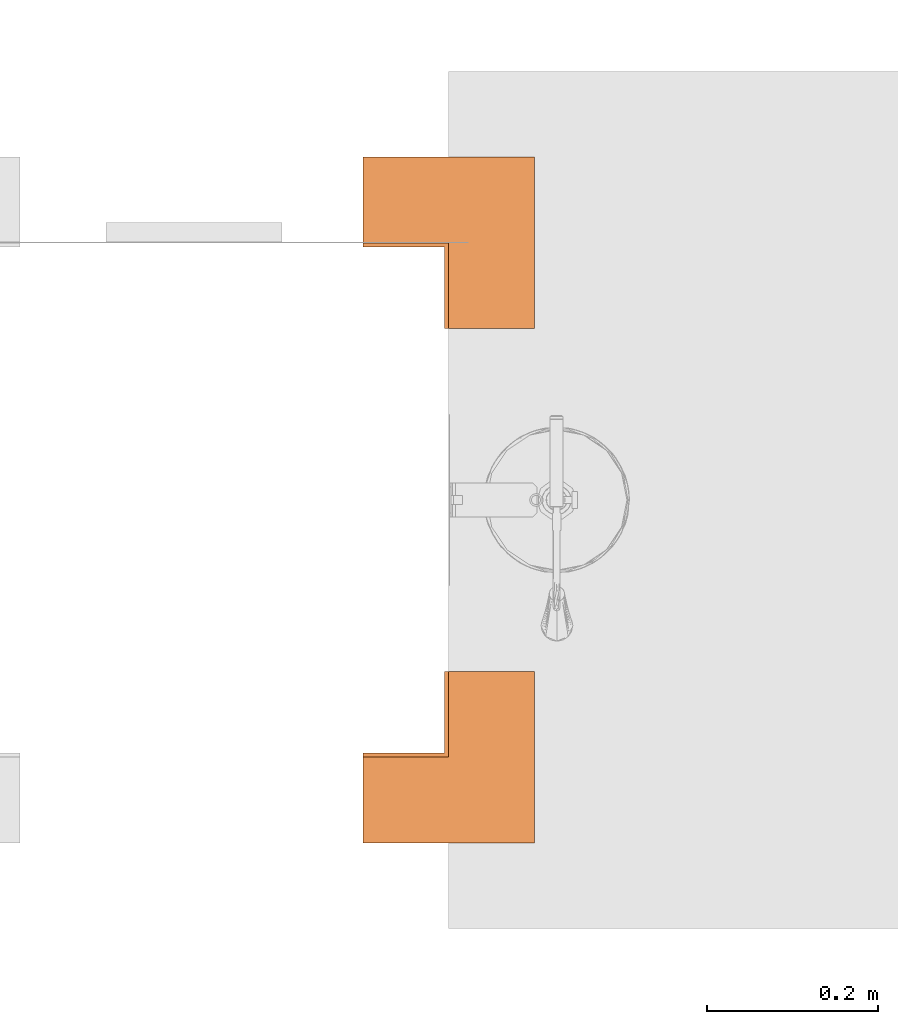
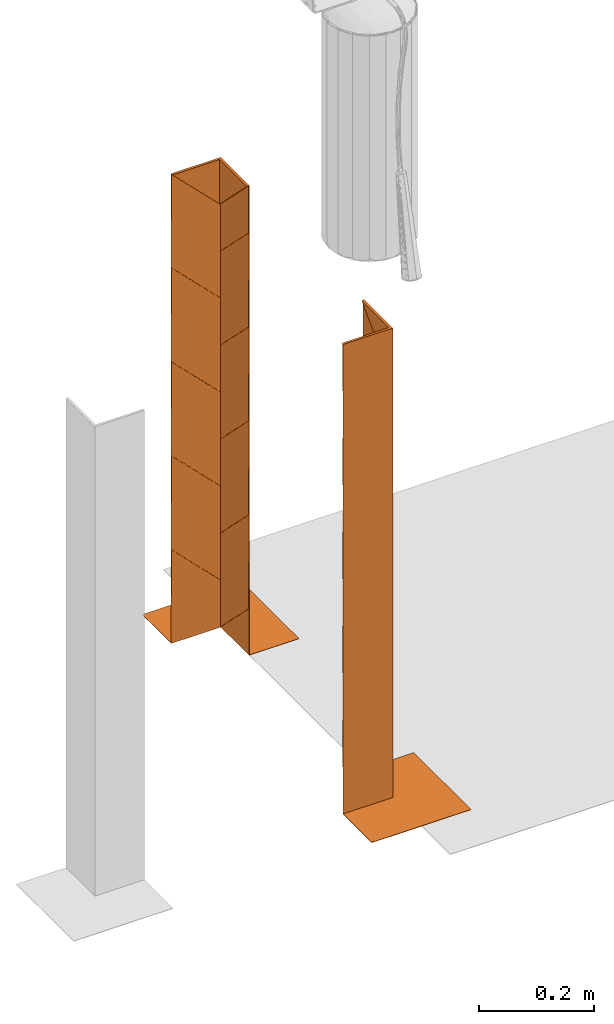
# One storey, part 13 of 119: 2 proxies.
"""IFC2X3 building model written with IfcOpenShell, lengths in metres."""

import ifcopenshell
import ifcopenshell.guid

model = None  # the IFC model being written
_history = None  # IfcOwnerHistory: only IFC2X3 demands one
_inside = {}  # id of a spatial element -> (the spatial element, [elements in it])
_under = {}  # id of a project, library or spatial element -> (it, [spatial elements below it])
_declared = {}  # id of a project -> (the project, [libraries it declares])
_typed = {}  # id of a type object -> (the type object, [elements of that type])
_made_of = {}  # id of a material, layer set ... -> (it, [elements and type objects made of it])


def new_model(schema):
    """Start an empty IFC model of exactly this schema.

    Asked for "IFC4X3", IfcOpenShell would pick the latest addendum, in which some entities
    have other attributes; the version numbers below select the first issue.
    IFC2X3 requires an IfcOwnerHistory on every rooted entity: one is made here for all.
    """
    global model, _history
    if schema == "IFC4X3":
        model = ifcopenshell.file(schema_version=(4, 3, 0, 0))
    else:
        model = ifcopenshell.file(schema=schema)
    _inside.clear()
    _under.clear()
    _declared.clear()
    _typed.clear()
    _made_of.clear()
    _history = None
    if model.schema == "IFC2X3":
        org = make("IfcOrganization", Name="unknown")
        user = make(
            "IfcPersonAndOrganization",
            ThePerson=make("IfcPerson", FamilyName="unknown"),
            TheOrganization=org,
        )
        app = make(
            "IfcApplication",
            ApplicationDeveloper=org,
            Version="unknown",
            ApplicationFullName="unknown",
            ApplicationIdentifier="unknown",
        )
        _history = make(
            "IfcOwnerHistory",
            OwningUser=user,
            OwningApplication=app,
            ChangeAction="ADDED",
            CreationDate=0,
        )
    return model


def make(cls, **values):
    """One entity of the class cls with the attributes given. An attribute that is None is left unset."""
    return model.create_entity(
        cls, **{name: value for name, value in values.items() if value is not None}
    )


def entity(cls, *values):
    """Any entity or typed value of the class cls, its attributes in the order of the schema. None: left unset."""
    e = model.create_entity(cls)
    for i, value in enumerate(values):
        if value is not None:
            e[i] = value
    return e


def rooted(cls, **values):
    """An entity with a GlobalId (a new one), such as an element, a storey or a relation."""
    return make(cls, GlobalId=ifcopenshell.guid.new(), OwnerHistory=_history, **values)


def si_unit(unit_type, name, prefix=None):
    """IfcSIUnit, for example si_unit("LENGTHUNIT", "METRE", prefix="MILLI")."""
    return make("IfcSIUnit", UnitType=unit_type, Prefix=prefix, Name=name)


def converted_unit(unit_type, name, factor, base, dimensions=None, offset=None):
    """IfcConversionBasedUnit, such as the inch: factor (a typed value) times the base unit."""
    return make(
        "IfcConversionBasedUnit"
        if offset is None
        else "IfcConversionBasedUnitWithOffset",
        ConversionOffset=offset,
        Dimensions=None
        if dimensions is None
        else entity("IfcDimensionalExponents", *dimensions),
        UnitType=unit_type,
        Name=name,
        ConversionFactor=make(
            "IfcMeasureWithUnit", ValueComponent=factor, UnitComponent=base
        ),
    )


def derived_unit(unit_type, elements):
    """IfcDerivedUnit: a product of units, each with its exponent."""
    return make(
        "IfcDerivedUnit",
        Elements=[
            make("IfcDerivedUnitElement", Unit=unit, Exponent=power)
            for unit, power in elements
        ],
        UnitType=unit_type,
    )


def assignment(units):
    """IfcUnitAssignment: the units of a project."""
    return None if units is None else make("IfcUnitAssignment", Units=units)


def point(xyz):
    """IfcCartesianPoint."""
    return None if xyz is None else make("IfcCartesianPoint", Coordinates=xyz)


def direction(xyz):
    """IfcDirection."""
    return None if xyz is None else make("IfcDirection", DirectionRatios=xyz)


def frame(location, z_axis=None, x_axis=None):
    """IfcAxis2Placement3D, a coordinate frame: its origin and axes. An axis left out is left unset."""
    return make(
        "IfcAxis2Placement3D",
        Location=point(location),
        Axis=direction(z_axis),
        RefDirection=direction(x_axis),
    )


def origin():
    """The frame at (0, 0, 0) with its axes left unset."""
    return frame((0.0, 0.0, 0.0))


def place(relative_to, where):
    """IfcLocalPlacement: puts the frame where relative to a parent placement (None: the world)."""
    return make(
        "IfcLocalPlacement", PlacementRelTo=relative_to, RelativePlacement=where
    )


def context(
    kind, dimensions, precision=None, world=None, true_north=None, identifier=None
):
    """IfcGeometricRepresentationContext, for example the 3D "Model" context."""
    return make(
        "IfcGeometricRepresentationContext",
        ContextIdentifier=identifier,
        ContextType=kind,
        CoordinateSpaceDimension=dimensions,
        Precision=precision,
        WorldCoordinateSystem=world,
        TrueNorth=true_north,
    )


def subcontext(parent, identifier, kind, view, scale=None):
    """IfcGeometricRepresentationSubContext, for example "Body" below "Model"."""
    return make(
        "IfcGeometricRepresentationSubContext",
        ContextIdentifier=identifier,
        ContextType=kind,
        ParentContext=parent,
        TargetScale=scale,
        TargetView=view,
    )


def project(units=None, contexts=None):
    """IfcProject with its units and contexts."""
    return rooted(
        "IfcProject",
        Name="project",
        RepresentationContexts=contexts,
        UnitsInContext=assignment(units),
    )


def spatial(cls, under=None, at=None, **own):
    """A site, building, storey or space (cls), placed at a placement, below another one or the project."""
    s = rooted(cls, ObjectPlacement=at, **own)
    if under is not None:
        _under.setdefault(under.id(), (under, []))[1].append(s)
    return s


def faces_of(points, faces, orient=None, outer=None):
    """IfcFace entities. A face is a list of loops; a loop is a list of indices into points, from 0.

    orient and outer hold one flag for each loop. By default every Orientation is true, the
    first loop of a face is its IfcFaceOuterBound and the others are IfcFaceBound.
    """
    made = []
    for i, loops in enumerate(faces):
        bounds = []
        for j, loop in enumerate(loops):
            is_outer = j == 0 if outer is None else outer[i][j]
            bounds.append(
                make(
                    "IfcFaceOuterBound" if is_outer else "IfcFaceBound",
                    Bound=make("IfcPolyLoop", Polygon=[points[k] for k in loop]),
                    Orientation=True if orient is None else orient[i][j],
                )
            )
        made.append(make("IfcFace", Bounds=bounds))
    return made


def faceted_brep(points, faces, orient=None, outer=None, voids=None):
    """IfcFacetedBrep: a solid bounded by flat faces; with voids (closed shells), ...WithVoids."""
    shared = [point(p) for p in points]
    hull = make("IfcClosedShell", CfsFaces=faces_of(shared, faces, orient, outer))
    if voids is None:
        return make("IfcFacetedBrep", Outer=hull)
    return make(
        "IfcFacetedBrepWithVoids",
        Outer=hull,
        Voids=[
            make(cls, CfsFaces=faces_of(shared, fs, o, b)) for cls, fs, o, b in voids
        ],
    )


def shape(context_of_items, identifier, shape_type, items):
    """IfcShapeRepresentation: the items that make up one representation, for example the "Body"."""
    return make(
        "IfcShapeRepresentation",
        ContextOfItems=context_of_items,
        RepresentationIdentifier=identifier,
        RepresentationType=shape_type,
        Items=items,
    )


def source(mapping_origin, context_of_items, identifier, shape_type, items):
    """IfcRepresentationMap: a shape defined once, which mapped items show again and again."""
    return make(
        "IfcRepresentationMap",
        MappingOrigin=mapping_origin,
        MappedRepresentation=shape(context_of_items, identifier, shape_type, items),
    )


def transform(
    local_origin,
    x_axis=None,
    y_axis=None,
    z_axis=None,
    scale=None,
    scale2=None,
    scale3=None,
    uniform=True,
):
    """IfcCartesianTransformationOperator3D, or its non-uniform kind. x_axis, y_axis, z_axis: its Axis1, 2, 3."""
    if uniform:
        return make(
            "IfcCartesianTransformationOperator3D",
            Axis1=direction(x_axis),
            Axis2=direction(y_axis),
            LocalOrigin=point(local_origin),
            Scale=scale,
            Axis3=direction(z_axis),
        )
    return make(
        "IfcCartesianTransformationOperator3DnonUniform",
        Axis1=direction(x_axis),
        Axis2=direction(y_axis),
        LocalOrigin=point(local_origin),
        Scale=scale,
        Axis3=direction(z_axis),
        Scale2=scale2,
        Scale3=scale3,
    )


def mapped(mapping_source, mapping_target):
    """IfcMappedItem: shows the shape of a source again, moved by a transform."""
    return make(
        "IfcMappedItem", MappingSource=mapping_source, MappingTarget=mapping_target
    )


def material(Name=None, Category=None):
    """IfcMaterial."""
    return make("IfcMaterial", Name=Name, Category=Category)


def material_list(materials):
    """IfcMaterialList."""
    return make("IfcMaterialList", Materials=materials)


def made_of(thing, what):
    """Note that an element or type object is made of a material, layer set ...; save() writes the relation."""
    if what is not None:
        _made_of.setdefault(what.id(), (what, []))[1].append(thing)
    return thing


def type_object(cls, material=None, **own):
    """A type object (cls), such as IfcWallType, which elements share."""
    return made_of(rooted(cls, **own), material)


def type_shapes(of_type, sources):
    """Give a type object the sources (RepresentationMaps) that its elements show as mapped items."""
    of_type.RepresentationMaps = sources


def element(
    cls,
    number,
    at=None,
    inside=None,
    cuts=None,
    type_object=None,
    material=None,
    context=None,
    identifier="Body",
    shape_type=None,
    held_by="IfcProductDefinitionShape",
    body=None,
    shapes=None,
    **own,
):
    """One element of the class cls, such as IfcWall. Its Tag is "e" and its number.

    at: its placement. inside: the storey or other place that contains it. cuts: it is an
    opening in that element (IfcRelVoidsElement). A single representation is given by context,
    identifier, shape_type and body (its items); several are given by shapes. held_by: the class
    of the entity that holds the representations. save() writes the other relations.
    """
    e = rooted(cls, Tag="e%d" % number, ObjectPlacement=at, **own)
    if body is not None:
        shapes = [shape(context, identifier, shape_type, body)]
    if shapes is not None:
        e.Representation = make(held_by, Representations=shapes)
    if inside is not None:
        _inside.setdefault(inside.id(), (inside, []))[1].append(e)
    if cuts is not None:
        rooted(
            "IfcRelVoidsElement", RelatingBuildingElement=cuts, RelatedOpeningElement=e
        )
    if type_object is not None:
        _typed.setdefault(type_object.id(), (type_object, []))[1].append(e)
    return made_of(e, material)


def aggregate(whole, parts):
    """IfcRelAggregates: a whole, such as a stair, and the parts it consists of."""
    return rooted("IfcRelAggregates", RelatingObject=whole, RelatedObjects=parts)


def save(model, path):
    """Write the relations noted so far, then the file.

    IfcRelAggregates (storeys below a building ...), IfcRelContainedInSpatialStructure (elements
    in a storey), IfcRelDefinesByType, IfcRelAssociatesMaterial and IfcRelDeclares: one each for
    every whole, place, type object, material and project.
    """
    for whole, parts in _under.values():
        aggregate(whole, parts)
    for where, things in _inside.values():
        rooted(
            "IfcRelContainedInSpatialStructure",
            RelatedElements=things,
            RelatingStructure=where,
        )
    for kind, things in _typed.values():
        rooted("IfcRelDefinesByType", RelatedObjects=things, RelatingType=kind)
    for what, things in _made_of.values():
        rooted("IfcRelAssociatesMaterial", RelatedObjects=things, RelatingMaterial=what)
    for by, libraries in _declared.values():
        rooted("IfcRelDeclares", RelatingContext=by, RelatedDefinitions=libraries)
    model.write(path)


model = new_model("IFC2X3")

# Units and contexts
model_context = context("Model", 3, precision=1e-05, world=origin(), true_north=direction((6.12303176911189e-17, 1.0)))
body_context = subcontext(model_context, "Body", "Model", "MODEL_VIEW")
ifc_project = project(units=[si_unit("LENGTHUNIT", "METRE"), si_unit("AREAUNIT", "SQUARE_METRE"), si_unit("VOLUMEUNIT", "CUBIC_METRE"), converted_unit("PLANEANGLEUNIT", "DEGREE", entity("IfcRatioMeasure", 0.0174532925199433), si_unit("PLANEANGLEUNIT", "RADIAN"), dimensions=[0, 0, 0, 0, 0, 0, 0]), si_unit("MASSUNIT", "GRAM", prefix="KILO"), derived_unit("MASSDENSITYUNIT", [(si_unit("MASSUNIT", "GRAM", prefix="KILO"), 1), (si_unit("LENGTHUNIT", "METRE"), -3)]), derived_unit("MOMENTOFINERTIAUNIT", [(si_unit("LENGTHUNIT", "METRE"), 4)]), si_unit("TIMEUNIT", "SECOND"), si_unit("FREQUENCYUNIT", "HERTZ"), si_unit("THERMODYNAMICTEMPERATUREUNIT", "DEGREE_CELSIUS"), derived_unit("THERMALTRANSMITTANCEUNIT", [(si_unit("MASSUNIT", "GRAM", prefix="KILO"), 1), (si_unit("THERMODYNAMICTEMPERATUREUNIT", "KELVIN"), -1), (si_unit("TIMEUNIT", "SECOND"), -3)]), derived_unit("VOLUMETRICFLOWRATEUNIT", [(si_unit("LENGTHUNIT", "METRE"), 3), (si_unit("TIMEUNIT", "SECOND"), -1)]), si_unit("ELECTRICCURRENTUNIT", "AMPERE"), si_unit("ELECTRICVOLTAGEUNIT", "VOLT"), si_unit("POWERUNIT", "WATT"), si_unit("FORCEUNIT", "NEWTON", prefix="KILO"), si_unit("ILLUMINANCEUNIT", "LUX"), si_unit("LUMINOUSFLUXUNIT", "LUMEN"), si_unit("LUMINOUSINTENSITYUNIT", "CANDELA"), derived_unit("USERDEFINED", [(si_unit("MASSUNIT", "GRAM", prefix="KILO"), -1), (si_unit("LENGTHUNIT", "METRE"), -2), (si_unit("TIMEUNIT", "SECOND"), 3), (si_unit("LUMINOUSFLUXUNIT", "LUMEN"), 1)]), derived_unit("LINEARVELOCITYUNIT", [(si_unit("LENGTHUNIT", "METRE"), 1), (si_unit("TIMEUNIT", "SECOND"), -1)]), si_unit("PRESSUREUNIT", "PASCAL"), derived_unit("USERDEFINED", [(si_unit("LENGTHUNIT", "METRE"), -2), (si_unit("MASSUNIT", "GRAM", prefix="KILO"), 1), (si_unit("TIMEUNIT", "SECOND"), -2)]), derived_unit("LINEARFORCEUNIT", [(si_unit("MASSUNIT", "GRAM", prefix="KILO"), 1), (si_unit("LENGTHUNIT", "METRE"), 1), (si_unit("TIMEUNIT", "SECOND"), -2), (si_unit("LENGTHUNIT", "METRE"), -1)]), derived_unit("PLANARFORCEUNIT", [(si_unit("MASSUNIT", "GRAM", prefix="KILO"), 1), (si_unit("LENGTHUNIT", "METRE"), 1), (si_unit("TIMEUNIT", "SECOND"), -2), (si_unit("LENGTHUNIT", "METRE"), -2)])], contexts=[model_context])

# Site, building, storey
site_placement = place(None, origin())
site = spatial("IfcSite", under=ifc_project, at=site_placement, Name="Default", CompositionType="ELEMENT")
building_placement = place(site_placement, origin())
building = spatial("IfcBuilding", under=site, at=building_placement, CompositionType="ELEMENT")
storey_placement = place(building_placement, origin())
storey = spatial("IfcBuildingStorey", under=building, at=storey_placement, Name="PAV. 01 - TÉRREO", CompositionType="ELEMENT", Elevation=0.0)

# Proxies
ifc_material_1 = material(Name="Plastico Amarelo")
ifc_material_2 = material(Name="Plastico Preto")
ifc_material_3 = material(Name="O_01_amarelo")
ifc_material_4 = material(Name="O_01_Preto")
ifc_material_list_1 = material_list([ifc_material_1, ifc_material_2, ifc_material_3, ifc_material_4])
ifc_material_list_2 = material_list([ifc_material_3, ifc_material_4, ifc_material_1])
building_element_proxy_type = type_object("IfcBuildingElementProxyType", Name="Indicação de Obstáculos:Indicador - O01 - Amarelo (ambiente interno)", PredefinedType="NOTDEFINED", material=ifc_material_list_2)
shared_shape = source(origin(), body_context, "Body", "Brep", [
    faceted_brep([(0.1, -0.0499999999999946, 0.000999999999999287), (0.0499999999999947, -0.1, 0.000999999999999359), (0.1, -0.1, 0.000999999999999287), (0.1, -0.0499999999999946, 0.0), (0.1, -0.1, 0.0), (0.0499999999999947, -0.1, 0.0)], [[[0, 1, 2]], [[3, 4, 5]], [[0, 2, 4, 3]], [[1, 0, 3, 5]], [[2, 1, 5, 4]]]),
    faceted_brep([(0.100000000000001, 0.0, 0.000999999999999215), (0.0, -0.1, 0.000999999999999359), (0.049999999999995, -0.1, 0.000999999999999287), (0.100000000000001, -0.0499999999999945, 0.000999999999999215), (0.100000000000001, 0.0, 0.0), (0.100000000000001, -0.0499999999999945, 0.0), (0.049999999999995, -0.1, 0.0), (0.0, -0.1, 0.0)], [[[0, 1, 2, 3]], [[4, 5, 6, 7]], [[0, 3, 5, 4]], [[1, 0, 4, 7]], [[3, 2, 6, 5]], [[2, 1, 7, 6]]]),
    faceted_brep([(0.049999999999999, 0.0, 0.000999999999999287), (-0.0500000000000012, -0.0999999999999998, 0.000999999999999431), (0.0, -0.1, 0.000999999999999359), (0.0999999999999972, 0.0, 0.000999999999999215), (0.049999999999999, 0.0, 0.0), (0.0999999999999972, 0.0, 0.0), (0.0, -0.1, 0.0), (-0.0500000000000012, -0.0999999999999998, 0.0)], [[[0, 1, 2, 3]], [[4, 5, 6, 7]], [[1, 0, 4, 7]], [[3, 2, 6, 5]], [[2, 1, 7, 6]], [[0, 3, 5, 4]]]),
    faceted_brep([(-0.0999999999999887, -0.0999999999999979, 0.000999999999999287), (-0.0499999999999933, -0.0999999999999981, 0.000999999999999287), (0.0499999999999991, 0.0, 0.000999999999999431), (0.0, 0.0, 0.000999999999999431), (-0.0999999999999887, -0.0999999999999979, 0.0), (0.0, 0.0, 0.0), (0.049999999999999, 0.0, 0.0), (-0.0499999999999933, -0.0999999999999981, 0.0)], [[[0, 1, 2, 3]], [[4, 5, 6, 7]], [[0, 3, 5, 4]], [[2, 1, 7, 6]], [[3, 2, 6, 5]], [[1, 0, 4, 7]]]),
    faceted_brep([(0.0, 0.0500000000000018, 0.000999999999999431), (-0.0999999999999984, -0.0500000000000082, 0.000999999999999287), (-0.099999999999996, -0.100000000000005, 0.000999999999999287), (0.0, 0.0, 0.000999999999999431), (0.0, 0.0500000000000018, 0.0), (0.0, 0.0, 0.0), (-0.099999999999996, -0.100000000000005, 0.0), (-0.0999999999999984, -0.0500000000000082, 0.0)], [[[0, 1, 2, 3]], [[4, 5, 6, 7]], [[0, 3, 5, 4]], [[1, 0, 4, 7]], [[2, 1, 7, 6]], [[3, 2, 6, 5]]]),
    faceted_brep([(-0.0999999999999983, 0.0499999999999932, 0.000999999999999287), (-0.0499999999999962, 0.1, 0.000999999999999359), (-0.100000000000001, 0.1, 0.000999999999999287), (-0.0999999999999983, 0.0499999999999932, 0.0), (-0.100000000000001, 0.1, 0.0), (-0.0499999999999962, 0.1, 0.0)], [[[0, 1, 2]], [[3, 4, 5]], [[0, 2, 4, 3]], [[1, 0, 3, 5]], [[2, 1, 5, 4]]]),
    faceted_brep([(-0.0999999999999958, 0.0, 0.000999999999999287), (0.0, 0.1, 0.000999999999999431), (-0.0499999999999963, 0.1, 0.000999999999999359), (-0.0999999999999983, 0.0499999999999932, 0.000999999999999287), (-0.0999999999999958, 0.0, 0.0), (-0.0999999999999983, 0.0499999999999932, 0.0), (-0.0499999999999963, 0.1, 0.0), (0.0, 0.1, 0.0)], [[[0, 1, 2, 3]], [[4, 5, 6, 7]], [[0, 3, 5, 4]], [[1, 0, 4, 7]], [[3, 2, 6, 5]], [[2, 1, 7, 6]]]),
    faceted_brep([(0.0, 0.050000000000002, 0.000999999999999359), (0.0, 0.1, 0.000999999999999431), (-0.0999999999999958, 0.0, 0.000999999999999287), (-0.0999999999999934, -0.0500000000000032, 0.000999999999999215), (0.0, 0.0500000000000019, 0.0), (-0.0999999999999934, -0.0500000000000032, 0.0), (-0.0999999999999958, 0.0, 0.0), (0.0, 0.1, 0.0)], [[[0, 1, 2, 3]], [[4, 5, 6, 7]], [[1, 0, 4, 7]], [[2, 1, 7, 6]], [[0, 3, 5, 4]], [[3, 2, 6, 5]]]),
    faceted_brep([(0.00200000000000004, 0.1, 1.0), (0.002, 0.00199999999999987, 0.902000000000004), (0.002, 0.00199999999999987, 0.802000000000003), (0.00200000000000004, 0.1, 0.900000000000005), (0.0, 0.1, 0.900000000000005), (0.0, 0.0, 0.800000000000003), (0.0, 0.0, 0.900000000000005), (0.0, 0.1, 1.0)], [[[0, 1, 2, 3]], [[4, 5, 6, 7]], [[4, 3, 2, 5]], [[1, 6, 5, 2]], [[6, 1, 0, 7]], [[3, 4, 7, 0]]]),
    faceted_brep([(0.00200000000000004, 0.1, 0.800000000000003), (0.002, 0.00199999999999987, 0.702000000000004), (0.002, 0.00199999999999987, 0.602000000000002), (0.00200000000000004, 0.1, 0.700000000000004), (0.0, 0.1, 0.700000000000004), (0.0, 0.0, 0.600000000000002), (0.0, 0.0, 0.700000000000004), (0.0, 0.1, 0.800000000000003)], [[[0, 1, 2, 3]], [[4, 5, 6, 7]], [[4, 3, 2, 5]], [[1, 6, 5, 2]], [[6, 1, 0, 7]], [[3, 4, 7, 0]]]),
    faceted_brep([(0.00200000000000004, 0.1, 0.600000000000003), (0.002, 0.00199999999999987, 0.502000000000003), (0.002, 0.00199999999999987, 0.402000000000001), (0.00200000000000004, 0.1, 0.500000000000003), (0.0, 0.1, 0.500000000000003), (0.0, 0.0, 0.400000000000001), (0.0, 0.0, 0.500000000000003), (0.0, 0.1, 0.600000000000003)], [[[0, 1, 2, 3]], [[4, 5, 6, 7]], [[4, 3, 2, 5]], [[1, 6, 5, 2]], [[6, 1, 0, 7]], [[3, 4, 7, 0]]]),
    faceted_brep([(0.00200000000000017, 0.0999999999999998, 0.400000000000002), (0.00200000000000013, 0.0019999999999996, 0.302000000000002), (0.00200000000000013, 0.0019999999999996, 0.202), (0.00200000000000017, 0.0999999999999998, 0.300000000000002), (0.0, 0.0999999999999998, 0.300000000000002), (0.0, 0.0, 0.2), (0.0, 0.0, 0.300000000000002), (0.0, 0.0999999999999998, 0.400000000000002)], [[[0, 1, 2, 3]], [[4, 5, 6, 7]], [[4, 3, 2, 5]], [[1, 6, 5, 2]], [[6, 1, 0, 7]], [[3, 4, 7, 0]]]),
    faceted_brep([(0.000500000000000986, 0.1, 0.900000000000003), (0.000500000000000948, 0.000499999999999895, 0.800500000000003), (0.000500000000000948, 0.00049999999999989, 0.700500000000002), (0.000500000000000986, 0.1, 0.800000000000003), (0.0, 0.1, 0.800000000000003), (0.0, 0.0, 0.700000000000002), (0.0, 0.0, 0.800000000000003), (0.0, 0.1, 0.900000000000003)], [[[0, 1, 2, 3]], [[4, 5, 6, 7]], [[4, 3, 2, 5]], [[1, 6, 5, 2]], [[6, 1, 0, 7]], [[3, 4, 7, 0]]]),
    faceted_brep([(0.000500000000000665, 0.1, 0.700000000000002), (0.000500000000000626, 0.000499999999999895, 0.600500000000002), (0.000500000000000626, 0.00049999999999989, 0.500500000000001), (0.000500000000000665, 0.1, 0.600000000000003), (0.0, 0.1, 0.600000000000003), (0.0, 0.0, 0.500000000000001), (0.0, 0.0, 0.600000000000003), (0.0, 0.1, 0.700000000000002)], [[[0, 1, 2, 3]], [[4, 5, 6, 7]], [[4, 3, 2, 5]], [[1, 6, 5, 2]], [[6, 1, 0, 7]], [[3, 4, 7, 0]]]),
    faceted_brep([(0.000500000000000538, 0.0999999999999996, 0.500000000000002), (0.000500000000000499, 0.000499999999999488, 0.400500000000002), (0.000500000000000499, 0.000499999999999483, 0.3005), (0.000500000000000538, 0.0999999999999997, 0.400000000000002), (0.0, 0.0999999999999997, 0.400000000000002), (0.0, 0.0, 0.3), (0.0, 0.0, 0.400000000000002), (0.0, 0.0999999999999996, 0.500000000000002)], [[[0, 1, 2, 3]], [[4, 5, 6, 7]], [[4, 3, 2, 5]], [[1, 6, 5, 2]], [[6, 1, 0, 7]], [[3, 4, 7, 0]]]),
    faceted_brep([(0.00499999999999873, 0.00499999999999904, 1.0), (0.00499999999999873, 0.00499999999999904, 0.904999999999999), (0.00499999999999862, 0.0999999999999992, 1.0), (0.0, 0.0, 0.899999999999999), (0.0, 0.0, 1.0), (0.0, 0.0999999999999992, 1.0)], [[[0, 1, 2]], [[3, 4, 5]], [[4, 0, 2, 5]], [[5, 2, 1, 3]], [[0, 4, 3, 1]]]),
    faceted_brep([(0.00499999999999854, 0.00499999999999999, 1.0), (0.0999999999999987, 0.00499999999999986, 1.0), (0.00499999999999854, 0.00499999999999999, 0.904999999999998), (0.0, 0.0, 0.899999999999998), (0.0999999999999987, 0.0, 1.0), (0.0, 0.0, 1.0)], [[[0, 1, 2]], [[3, 4, 5]], [[5, 4, 1, 0]], [[4, 3, 2, 1]], [[0, 2, 3, 5]]]),
    faceted_brep([(0.0999999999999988, 0.000499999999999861, 0.900000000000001), (0.0999999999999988, 0.000499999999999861, 0.800000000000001), (0.000499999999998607, 0.000499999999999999, 0.7005), (0.000499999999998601, 0.000499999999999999, 0.800500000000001), (0.0999999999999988, 0.0, 0.800000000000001), (0.0999999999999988, 0.0, 0.900000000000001), (0.0, 0.0, 0.800000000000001), (0.0, 0.0, 0.7)], [[[0, 1, 2, 3]], [[4, 5, 6, 7]], [[4, 7, 2, 1]], [[3, 2, 7, 6]], [[6, 5, 0, 3]], [[1, 0, 5, 4]]]),
    faceted_brep([(0.0999999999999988, 0.000499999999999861, 0.700000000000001), (0.0999999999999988, 0.000499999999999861, 0.600000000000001), (0.000499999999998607, 0.000499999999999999, 0.5005), (0.000499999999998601, 0.000499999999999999, 0.600500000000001), (0.0999999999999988, 0.0, 0.600000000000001), (0.0999999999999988, 0.0, 0.700000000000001), (0.0, 0.0, 0.600000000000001), (0.0, 0.0, 0.5)], [[[0, 1, 2, 3]], [[4, 5, 6, 7]], [[4, 7, 2, 1]], [[3, 2, 7, 6]], [[6, 5, 0, 3]], [[1, 0, 5, 4]]]),
    faceted_brep([(0.0999999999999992, 0.000499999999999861, 0.500000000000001), (0.0999999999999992, 0.000499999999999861, 0.400000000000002), (0.000499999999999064, 0.000499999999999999, 0.3005), (0.000499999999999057, 0.000499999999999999, 0.400500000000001), (0.0999999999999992, 0.0, 0.400000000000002), (0.0999999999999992, 0.0, 0.500000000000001), (0.0, 0.0, 0.400000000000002), (0.0, 0.0, 0.3)], [[[0, 1, 2, 3]], [[4, 5, 6, 7]], [[4, 7, 2, 1]], [[3, 2, 7, 6]], [[6, 5, 0, 3]], [[1, 0, 5, 4]]]),
    faceted_brep([(0.0999999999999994, 0.00199999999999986, 1.0), (0.0999999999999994, 0.00199999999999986, 0.900000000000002), (0.00199999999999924, 0.002, 0.802), (0.00199999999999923, 0.002, 0.902000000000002), (0.0999999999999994, 0.0, 0.900000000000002), (0.0999999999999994, 0.0, 1.0), (0.0, 0.0, 0.900000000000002), (0.0, 0.0, 0.8)], [[[0, 1, 2, 3]], [[4, 5, 6, 7]], [[4, 7, 2, 1]], [[3, 2, 7, 6]], [[6, 5, 0, 3]], [[1, 0, 5, 4]]]),
    faceted_brep([(0.0999999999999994, 0.00199999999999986, 0.800000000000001), (0.0999999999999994, 0.00199999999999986, 0.700000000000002), (0.00199999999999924, 0.002, 0.602), (0.00199999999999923, 0.002, 0.702000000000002), (0.0999999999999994, 0.0, 0.700000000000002), (0.0999999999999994, 0.0, 0.800000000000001), (0.0, 0.0, 0.700000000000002), (0.0, 0.0, 0.6)], [[[0, 1, 2, 3]], [[4, 5, 6, 7]], [[4, 7, 2, 1]], [[3, 2, 7, 6]], [[6, 5, 0, 3]], [[1, 0, 5, 4]]]),
    faceted_brep([(0.0999999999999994, 0.00199999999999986, 0.600000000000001), (0.0999999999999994, 0.00199999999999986, 0.500000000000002), (0.00199999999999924, 0.002, 0.402), (0.00199999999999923, 0.002, 0.502000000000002), (0.0999999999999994, 0.0, 0.500000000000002), (0.0999999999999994, 0.0, 0.600000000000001), (0.0, 0.0, 0.500000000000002), (0.0, 0.0, 0.4)], [[[0, 1, 2, 3]], [[4, 5, 6, 7]], [[4, 7, 2, 1]], [[3, 2, 7, 6]], [[6, 5, 0, 3]], [[1, 0, 5, 4]]]),
    faceted_brep([(0.0999999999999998, 0.00199999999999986, 0.400000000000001), (0.0999999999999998, 0.00199999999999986, 0.300000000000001), (0.00199999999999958, 0.002, 0.202), (0.00199999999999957, 0.002, 0.302000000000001), (0.0999999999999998, 0.0, 0.300000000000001), (0.0999999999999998, 0.0, 0.400000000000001), (0.0, 0.0, 0.300000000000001), (0.0, 0.0, 0.2)], [[[0, 1, 2, 3]], [[4, 5, 6, 7]], [[4, 7, 2, 1]], [[3, 2, 7, 6]], [[6, 5, 0, 3]], [[1, 0, 5, 4]]]),
    faceted_brep([(0.000500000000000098, 0.1, 0.300000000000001), (0.000500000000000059, 0.000499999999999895, 0.200500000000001), (0.000500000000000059, 0.00049999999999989, 0.1005), (0.000500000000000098, 0.1, 0.200000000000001), (0.0, 0.1, 0.200000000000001), (0.0, 0.0, 0.0999999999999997), (0.0, 0.0, 0.200000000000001), (0.0, 0.1, 0.300000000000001)], [[[0, 1, 2, 3]], [[4, 5, 6, 7]], [[4, 3, 2, 5]], [[1, 6, 5, 2]], [[6, 1, 0, 7]], [[3, 4, 7, 0]]]),
    faceted_brep([(0.00200000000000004, 0.1, 0.200000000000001), (0.002, 0.00199999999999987, 0.102000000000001), (0.002, 0.00199999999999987, 0.00199999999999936), (0.00200000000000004, 0.1, 0.100000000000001), (0.0, 0.1, 0.100000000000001), (0.0, 0.0, 0.0), (0.0, 0.0, 0.100000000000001), (0.0, 0.1, 0.200000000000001)], [[[0, 1, 2, 3]], [[4, 5, 6, 7]], [[4, 3, 2, 5]], [[1, 6, 5, 2]], [[6, 1, 0, 7]], [[3, 4, 7, 0]]]),
    faceted_brep([(0.000500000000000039, 0.1, 0.100000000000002), (0.0005, 0.000499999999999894, 0.000499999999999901), (0.0005, 0.000499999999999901, 0.0), (0.000500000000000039, 0.1, 0.0), (0.0, 0.0, 0.0), (0.0, 0.1, 0.100000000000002), (0.0, 0.1, 0.0)], [[[0, 1, 2, 3]], [[4, 5, 6]], [[3, 6, 5, 0]], [[6, 3, 2, 4]], [[4, 1, 0, 5]], [[1, 4, 2]]]),
    faceted_brep([(0.0999999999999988, 0.000499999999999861, 0.300000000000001), (0.0999999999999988, 0.000499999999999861, 0.200000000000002), (0.000499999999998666, 0.000499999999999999, 0.1005), (0.00049999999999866, 0.000499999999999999, 0.200500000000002), (0.0999999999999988, 0.0, 0.200000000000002), (0.0999999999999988, 0.0, 0.300000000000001), (0.0, 0.0, 0.200000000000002), (0.0, 0.0, 0.1)], [[[0, 1, 2, 3]], [[4, 5, 6, 7]], [[4, 7, 2, 1]], [[3, 2, 7, 6]], [[6, 5, 0, 3]], [[1, 0, 5, 4]]]),
    faceted_brep([(0.0999999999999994, 0.00199999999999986, 0.200000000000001), (0.0999999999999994, 0.00199999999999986, 0.100000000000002), (0.00199999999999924, 0.002, 0.0019999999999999), (0.00199999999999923, 0.002, 0.102000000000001), (0.0999999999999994, 0.0, 0.100000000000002), (0.0999999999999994, 0.0, 0.200000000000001), (0.0, 0.0, 0.100000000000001), (0.0, 0.0, 0.0)], [[[0, 1, 2, 3]], [[4, 5, 6, 7]], [[4, 7, 2, 1]], [[3, 2, 7, 6]], [[6, 5, 0, 3]], [[1, 0, 5, 4]]]),
    faceted_brep([(0.1, 0.000499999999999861, 0.100000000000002), (0.1, 0.000499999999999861, 0.0), (0.000499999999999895, 0.000499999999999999, 0.0), (0.000499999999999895, 0.000499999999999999, 0.000499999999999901), (0.0, 0.0, 0.0), (0.1, 0.0, 0.0), (0.1, 0.0, 0.100000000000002)], [[[0, 1, 2, 3]], [[4, 5, 6]], [[1, 0, 6, 5]], [[5, 4, 2, 1]], [[4, 6, 0, 3]], [[3, 2, 4]]]),
])
type_shapes(building_element_proxy_type, [shared_shape])
proxy_1_placement = place(storey_placement, frame((6.47387477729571, 31.6286451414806, 0.0), z_axis=(0.0, 0.0, 1.0), x_axis=(0.0, 1.0, 0.0)))
element("IfcBuildingElementProxy", 1, at=proxy_1_placement, inside=storey, type_object=building_element_proxy_type, material=ifc_material_list_1, Name="Indicação de Obstáculos:Indicador - O01 - Amarelo (ambiente interno)", ObjectType="Indicação de Obstáculos:Indicador - O01 - Amarelo (ambiente interno)", context=body_context, shape_type="MappedRepresentation", body=[
    mapped(shared_shape, transform((0.0, 0.0, 0.0), scale=1.0)),
])
ifc_material_list_3 = material_list([ifc_material_1, ifc_material_2, ifc_material_3, ifc_material_4])
proxy_2_placement = place(storey_placement, frame((6.47387477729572, 32.2286443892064, 0.0), z_axis=(0.0, 0.0, 1.0), x_axis=(-1.0, 0.0, 0.0)))
element("IfcBuildingElementProxy", 2, at=proxy_2_placement, inside=storey, type_object=building_element_proxy_type, material=ifc_material_list_3, Name="Indicação de Obstáculos:Indicador - O01 - Amarelo (ambiente interno)", ObjectType="Indicação de Obstáculos:Indicador - O01 - Amarelo (ambiente interno)", context=body_context, shape_type="MappedRepresentation", body=[
    mapped(shared_shape, transform((0.0, 0.0, 0.0), scale=1.0)),
])

save(model, "model.ifc")
